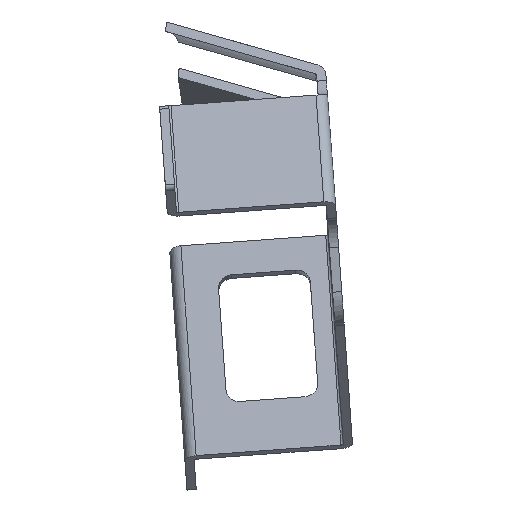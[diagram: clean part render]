
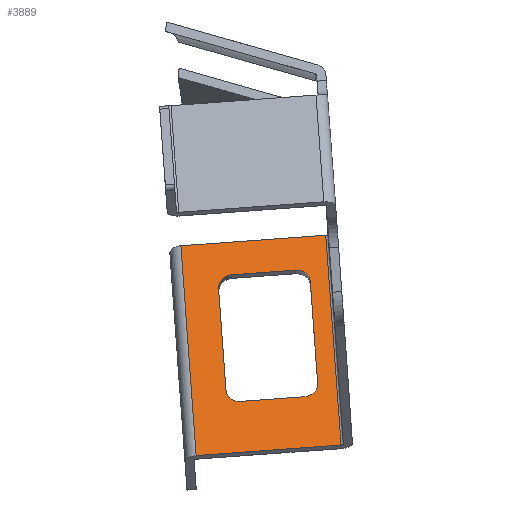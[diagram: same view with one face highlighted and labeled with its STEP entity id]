
A CAD part, front view. The second image highlights one B-rep face of the part: STEP entity #3889.
In plain terms, the highlighted free-form (B-spline) face has degree [5, 1] with [6, 2] control points.
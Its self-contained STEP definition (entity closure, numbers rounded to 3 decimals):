
#158=CARTESIAN_POINT('Vertex',(605.847,-481.151,1050.975)) ;
#162=CARTESIAN_POINT('Control Point',(604.241,-471.749,1072.998)) ;
#163=CARTESIAN_POINT('Control Point',(604.562,-473.63,1068.594)) ;
#164=CARTESIAN_POINT('Control Point',(604.883,-475.51,1064.189)) ;
#165=CARTESIAN_POINT('Control Point',(605.204,-477.39,1059.784)) ;
#166=CARTESIAN_POINT('Control Point',(605.525,-479.271,1055.379)) ;
#167=CARTESIAN_POINT('Control Point',(605.847,-481.151,1050.975)) ;
#168=CARTESIAN_POINT('Vertex',(604.241,-471.749,1072.998)) ;
#201=CARTESIAN_POINT('Vertex',(603.055,-482.328,1048.005)) ;
#205=CARTESIAN_POINT('Control Point',(605.847,-481.151,1050.975)) ;
#206=CARTESIAN_POINT('Control Point',(605.91,-481.52,1050.11)) ;
#207=CARTESIAN_POINT('Control Point',(605.604,-481.89,1049.218)) ;
#208=CARTESIAN_POINT('Control Point',(604.912,-482.182,1048.48)) ;
#209=CARTESIAN_POINT('Control Point',(603.995,-482.328,1048.073)) ;
#210=CARTESIAN_POINT('Control Point',(603.055,-482.328,1048.005)) ;
#238=CARTESIAN_POINT('Vertex',(589.092,-482.34,1046.992)) ;
#241=CARTESIAN_POINT('Line Origine',(596.073,-482.334,1047.498)) ;
#269=CARTESIAN_POINT('Vertex',(585.899,-481.167,1049.528)) ;
#273=CARTESIAN_POINT('Control Point',(589.092,-482.34,1046.992)) ;
#274=CARTESIAN_POINT('Control Point',(588.152,-482.34,1046.924)) ;
#275=CARTESIAN_POINT('Control Point',(587.186,-482.196,1047.194)) ;
#276=CARTESIAN_POINT('Control Point',(586.393,-481.905,1047.823)) ;
#277=CARTESIAN_POINT('Control Point',(585.962,-481.536,1048.663)) ;
#278=CARTESIAN_POINT('Control Point',(585.899,-481.167,1049.528)) ;
#306=CARTESIAN_POINT('Vertex',(584.294,-471.765,1071.551)) ;
#310=CARTESIAN_POINT('Control Point',(585.899,-481.167,1049.528)) ;
#311=CARTESIAN_POINT('Control Point',(585.578,-479.286,1053.932)) ;
#312=CARTESIAN_POINT('Control Point',(585.257,-477.406,1058.337)) ;
#313=CARTESIAN_POINT('Control Point',(584.936,-475.526,1062.742)) ;
#314=CARTESIAN_POINT('Control Point',(584.615,-473.645,1067.146)) ;
#315=CARTESIAN_POINT('Control Point',(584.294,-471.765,1071.551)) ;
#340=CARTESIAN_POINT('Vertex',(587.085,-470.587,1074.521)) ;
#344=CARTESIAN_POINT('Control Point',(584.294,-471.765,1071.551)) ;
#345=CARTESIAN_POINT('Control Point',(584.231,-471.396,1072.416)) ;
#346=CARTESIAN_POINT('Control Point',(584.536,-471.026,1073.308)) ;
#347=CARTESIAN_POINT('Control Point',(585.228,-470.734,1074.046)) ;
#348=CARTESIAN_POINT('Control Point',(586.145,-470.588,1074.453)) ;
#349=CARTESIAN_POINT('Control Point',(587.085,-470.587,1074.521)) ;
#377=CARTESIAN_POINT('Vertex',(601.049,-470.576,1075.534)) ;
#380=CARTESIAN_POINT('Line Origine',(594.067,-470.582,1075.028)) ;
#403=CARTESIAN_POINT('Control Point',(601.049,-470.576,1075.534)) ;
#404=CARTESIAN_POINT('Control Point',(601.988,-470.576,1075.602)) ;
#405=CARTESIAN_POINT('Control Point',(602.954,-470.72,1075.332)) ;
#406=CARTESIAN_POINT('Control Point',(603.747,-471.01,1074.703)) ;
#407=CARTESIAN_POINT('Control Point',(604.178,-471.38,1073.863)) ;
#408=CARTESIAN_POINT('Control Point',(604.241,-471.749,1072.998)) ;
#456=CARTESIAN_POINT('Vertex',(610.933,-487.024,1037.506)) ;
#460=CARTESIAN_POINT('Control Point',(579.422,-487.049,1035.22)) ;
#461=CARTESIAN_POINT('Control Point',(610.933,-487.024,1037.506)) ;
#462=CARTESIAN_POINT('Vertex',(579.422,-487.049,1035.22)) ;
#3826=CARTESIAN_POINT('Line Origine',(577.85,-477.843,1056.785)) ;
#3830=CARTESIAN_POINT('Vertex',(576.097,-467.577,1080.832)) ;
#3849=CARTESIAN_POINT('Control Point',(579.422,-487.049,1035.22)) ;
#3850=CARTESIAN_POINT('Control Point',(610.983,-487.024,1037.51)) ;
#3851=CARTESIAN_POINT('Control Point',(578.757,-483.154,1044.343)) ;
#3852=CARTESIAN_POINT('Control Point',(610.318,-483.129,1046.632)) ;
#3853=CARTESIAN_POINT('Control Point',(578.092,-479.26,1053.465)) ;
#3854=CARTESIAN_POINT('Control Point',(609.653,-479.235,1055.755)) ;
#3855=CARTESIAN_POINT('Control Point',(577.427,-475.366,1062.588)) ;
#3856=CARTESIAN_POINT('Control Point',(608.988,-475.341,1064.877)) ;
#3857=CARTESIAN_POINT('Control Point',(576.762,-471.471,1071.71)) ;
#3858=CARTESIAN_POINT('Control Point',(608.324,-471.446,1074.)) ;
#3859=CARTESIAN_POINT('Control Point',(576.097,-467.577,1080.832)) ;
#3860=CARTESIAN_POINT('Control Point',(607.659,-467.552,1083.122)) ;
#3862=CARTESIAN_POINT('Control Point',(607.604,-467.552,1083.118)) ;
#3863=CARTESIAN_POINT('Control Point',(608.714,-474.043,1067.914)) ;
#3864=CARTESIAN_POINT('Control Point',(609.824,-480.533,1052.71)) ;
#3865=CARTESIAN_POINT('Control Point',(610.933,-487.024,1037.506)) ;
#3866=CARTESIAN_POINT('Vertex',(607.604,-467.552,1083.118)) ;
#3870=CARTESIAN_POINT('Control Point',(576.097,-467.577,1080.832)) ;
#3871=CARTESIAN_POINT('Control Point',(607.604,-467.552,1083.118)) ;
#242=DIRECTION('Vector Direction',(-0.997,-0.001,-0.072)) ;
#381=DIRECTION('Vector Direction',(0.997,0.001,0.072)) ;
#3827=DIRECTION('Vector Direction',(0.067,-0.392,-0.918)) ;
#243=VECTOR('Line Direction',#242,1.) ;
#382=VECTOR('Line Direction',#381,1.) ;
#3828=VECTOR('Line Direction',#3827,1.) ;
#3874=ORIENTED_EDGE('',*,*,#3868,.F.) ;
#3875=ORIENTED_EDGE('',*,*,#3872,.F.) ;
#3876=ORIENTED_EDGE('',*,*,#3832,.T.) ;
#3877=ORIENTED_EDGE('',*,*,#464,.T.) ;
#3880=ORIENTED_EDGE('',*,*,#279,.T.) ;
#3881=ORIENTED_EDGE('',*,*,#316,.T.) ;
#3882=ORIENTED_EDGE('',*,*,#350,.T.) ;
#3883=ORIENTED_EDGE('',*,*,#384,.T.) ;
#3884=ORIENTED_EDGE('',*,*,#409,.T.) ;
#3885=ORIENTED_EDGE('',*,*,#170,.T.) ;
#3886=ORIENTED_EDGE('',*,*,#211,.T.) ;
#3887=ORIENTED_EDGE('',*,*,#245,.T.) ;
#3888=FACE_BOUND('',#3879,.T.) ;
#3889=ADVANCED_FACE('\X2\94A391D1\X0\-2025.03.24',(#3878,#3888),#3848,.F.) ;
#161=B_SPLINE_CURVE_WITH_KNOTS('',5,(#162,#163,#164,#165,#166,#167),.UNSPECIFIED.,.F.,.U.,(6,6),(0.,33.941),.UNSPECIFIED.) ;
#204=B_SPLINE_CURVE_WITH_KNOTS('',5,(#205,#206,#207,#208,#209,#210),.UNSPECIFIED.,.F.,.U.,(6,6),(0.,6.664),.UNSPECIFIED.) ;
#272=B_SPLINE_CURVE_WITH_KNOTS('',5,(#273,#274,#275,#276,#277,#278),.UNSPECIFIED.,.F.,.U.,(6,6),(0.,6.664),.UNSPECIFIED.) ;
#309=B_SPLINE_CURVE_WITH_KNOTS('',5,(#310,#311,#312,#313,#314,#315),.UNSPECIFIED.,.F.,.U.,(6,6),(0.,33.941),.UNSPECIFIED.) ;
#343=B_SPLINE_CURVE_WITH_KNOTS('',5,(#344,#345,#346,#347,#348,#349),.UNSPECIFIED.,.F.,.U.,(6,6),(0.,6.664),.UNSPECIFIED.) ;
#402=B_SPLINE_CURVE_WITH_KNOTS('',5,(#403,#404,#405,#406,#407,#408),.UNSPECIFIED.,.F.,.U.,(6,6),(0.,6.664),.UNSPECIFIED.) ;
#459=B_SPLINE_CURVE_WITH_KNOTS('',1,(#460,#461),.UNSPECIFIED.,.F.,.U.,(2,2),(-16.047,15.547),.UNSPECIFIED.) ;
#3861=B_SPLINE_CURVE_WITH_KNOTS('',3,(#3862,#3863,#3864,#3865),.UNSPECIFIED.,.F.,.U.,(4,4),(-16.14,33.566),.UNSPECIFIED.) ;
#3869=B_SPLINE_CURVE_WITH_KNOTS('',1,(#3870,#3871),.UNSPECIFIED.,.F.,.U.,(2,2),(1.,32.59),.UNSPECIFIED.) ;
#3848=B_SPLINE_SURFACE_WITH_KNOTS('',5,1,((#3849,#3850),(#3851,#3852),(#3853,#3854),(#3855,#3856),(#3857,#3858),(#3859,#3860)),.UNSPECIFIED.,.F.,.F.,.U.,(6,6),(2,2),(-4.5,45.206),(1.,32.644),.UNSPECIFIED.) ;
#170=EDGE_CURVE('',#169,#159,#161,.T.) ;
#211=EDGE_CURVE('',#159,#202,#204,.T.) ;
#245=EDGE_CURVE('',#202,#239,#244,.T.) ;
#279=EDGE_CURVE('',#239,#270,#272,.T.) ;
#316=EDGE_CURVE('',#270,#307,#309,.T.) ;
#350=EDGE_CURVE('',#307,#341,#343,.T.) ;
#384=EDGE_CURVE('',#341,#378,#383,.T.) ;
#409=EDGE_CURVE('',#378,#169,#402,.T.) ;
#464=EDGE_CURVE('',#463,#457,#459,.T.) ;
#3832=EDGE_CURVE('',#3831,#463,#3829,.T.) ;
#3868=EDGE_CURVE('',#3867,#457,#3861,.T.) ;
#3872=EDGE_CURVE('',#3831,#3867,#3869,.T.) ;
#3873=EDGE_LOOP('',(#3874,#3875,#3876,#3877)) ;
#3879=EDGE_LOOP('',(#3880,#3881,#3882,#3883,#3884,#3885,#3886,#3887)) ;
#3878=FACE_OUTER_BOUND('',#3873,.T.) ;
#244=LINE('Line',#241,#243) ;
#383=LINE('Line',#380,#382) ;
#3829=LINE('Line',#3826,#3828) ;
#159=VERTEX_POINT('',#158) ;
#169=VERTEX_POINT('',#168) ;
#202=VERTEX_POINT('',#201) ;
#239=VERTEX_POINT('',#238) ;
#270=VERTEX_POINT('',#269) ;
#307=VERTEX_POINT('',#306) ;
#341=VERTEX_POINT('',#340) ;
#378=VERTEX_POINT('',#377) ;
#457=VERTEX_POINT('',#456) ;
#463=VERTEX_POINT('',#462) ;
#3831=VERTEX_POINT('',#3830) ;
#3867=VERTEX_POINT('',#3866) ;
